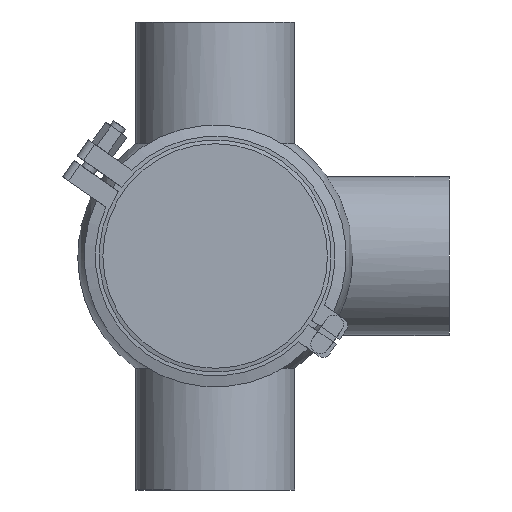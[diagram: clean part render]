
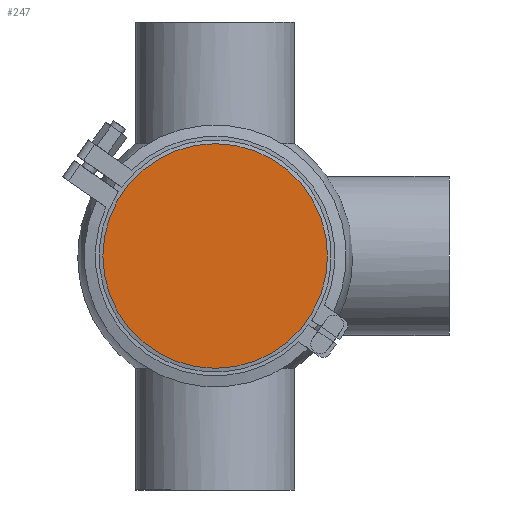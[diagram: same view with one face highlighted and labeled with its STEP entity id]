
A CAD part, front view. The second image highlights one B-rep face of the part: STEP entity #247.
In plain terms, the highlighted planar face has unit normal (0, -1, 0).
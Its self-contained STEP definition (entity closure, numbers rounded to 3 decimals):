
#247 = ADVANCED_FACE ( 'NONE', ( #7412 ), #9147, .T. ) ;
#2837 = DIRECTION ( 'NONE',  ( 0., 0., 1. ) ) ;
#4675 = CARTESIAN_POINT ( 'NONE',  ( 0., 0., 0. ) ) ;
#4804 = CARTESIAN_POINT ( 'NONE',  ( 0., 0., 60. ) ) ;
#7412 = FACE_OUTER_BOUND ( 'NONE', #14585, .T. ) ;
#7512 = DIRECTION ( 'NONE',  ( 0., -1., 0. ) ) ;
#8213 = VERTEX_POINT ( 'NONE', #4804 ) ;
#9147 = PLANE ( 'NONE',  #12439 ) ;
#12439 = AXIS2_PLACEMENT_3D ( 'NONE', #15761, #7512, #20792 ) ;
#14401 = AXIS2_PLACEMENT_3D ( 'NONE', #4675, #16208, #2837 ) ;
#14585 = EDGE_LOOP ( 'NONE', ( #20312 ) ) ;
#15761 = CARTESIAN_POINT ( 'NONE',  ( -60., 0., 0. ) ) ;
#16147 = CIRCLE ( 'NONE', #14401, 60. ) ;
#16208 = DIRECTION ( 'NONE',  ( 0., 1., 0. ) ) ;
#20312 = ORIENTED_EDGE ( 'NONE', *, *, #21169, .F. ) ;
#20792 = DIRECTION ( 'NONE',  ( 0., 0., -1. ) ) ;
#21169 = EDGE_CURVE ( 'NONE', #8213, #8213, #16147, .T. ) ;
